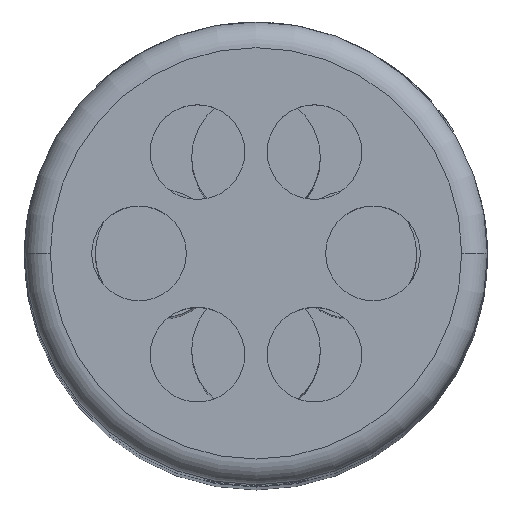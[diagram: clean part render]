
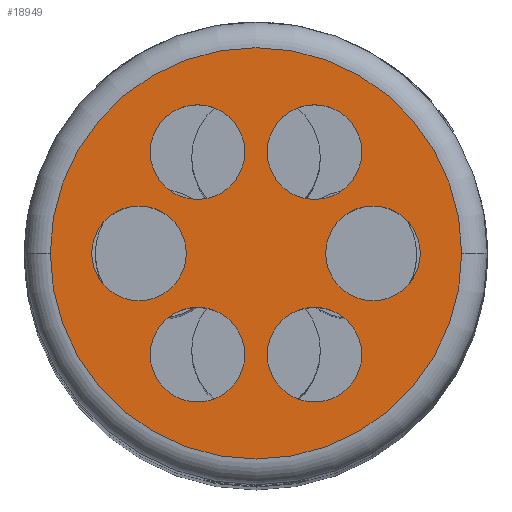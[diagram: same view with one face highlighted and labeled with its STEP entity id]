
A CAD part, top view. The second image highlights one B-rep face of the part: STEP entity #18949.
In plain terms, the highlighted planar face has unit normal (0, 0, 1) as drawn and (0, 0, -1) by its records, which use the part's own axes.
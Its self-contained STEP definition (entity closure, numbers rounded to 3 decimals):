
#18030=CARTESIAN_POINT('',(0.,0.,0.));
#18031=DIRECTION('',(0.,0.,-1.));
#18032=DIRECTION('',(1.,0.,0.));
#18033=AXIS2_PLACEMENT_3D('',#18030,#18031,#18032);
#18035=CARTESIAN_POINT('',(0.,0.,0.));
#18036=DIRECTION('',(0.,0.,-1.));
#18037=DIRECTION('',(-1.,0.,0.));
#18038=AXIS2_PLACEMENT_3D('',#18035,#18036,#18037);
#18040=CARTESIAN_POINT('',(9.099,0.,0.));
#18041=DIRECTION('',(0.,0.,-1.));
#18042=DIRECTION('',(-1.,0.,0.));
#18043=AXIS2_PLACEMENT_3D('',#18040,#18041,#18042);
#18045=CARTESIAN_POINT('',(9.099,0.,0.));
#18046=DIRECTION('',(0.,0.,-1.));
#18047=DIRECTION('',(1.,0.,0.));
#18048=AXIS2_PLACEMENT_3D('',#18045,#18046,#18047);
#18050=CARTESIAN_POINT('',(4.549,7.88,0.));
#18051=DIRECTION('',(0.,0.,-1.));
#18052=DIRECTION('',(-1.,0.,0.));
#18053=AXIS2_PLACEMENT_3D('',#18050,#18051,#18052);
#18055=CARTESIAN_POINT('',(4.549,7.88,0.));
#18056=DIRECTION('',(0.,0.,-1.));
#18057=DIRECTION('',(1.,0.,0.));
#18058=AXIS2_PLACEMENT_3D('',#18055,#18056,#18057);
#18060=CARTESIAN_POINT('',(-4.549,7.88,0.));
#18061=DIRECTION('',(0.,0.,-1.));
#18062=DIRECTION('',(-1.,0.,0.));
#18063=AXIS2_PLACEMENT_3D('',#18060,#18061,#18062);
#18065=CARTESIAN_POINT('',(-4.549,7.88,0.));
#18066=DIRECTION('',(0.,0.,-1.));
#18067=DIRECTION('',(1.,0.,0.));
#18068=AXIS2_PLACEMENT_3D('',#18065,#18066,#18067);
#18070=CARTESIAN_POINT('',(-9.099,0.,0.));
#18071=DIRECTION('',(0.,0.,-1.));
#18072=DIRECTION('',(-1.,0.,0.));
#18073=AXIS2_PLACEMENT_3D('',#18070,#18071,#18072);
#18075=CARTESIAN_POINT('',(-9.099,0.,0.));
#18076=DIRECTION('',(0.,0.,-1.));
#18077=DIRECTION('',(1.,0.,0.));
#18078=AXIS2_PLACEMENT_3D('',#18075,#18076,#18077);
#18080=CARTESIAN_POINT('',(-4.549,-7.88,0.));
#18081=DIRECTION('',(0.,0.,-1.));
#18082=DIRECTION('',(-1.,0.,0.));
#18083=AXIS2_PLACEMENT_3D('',#18080,#18081,#18082);
#18085=CARTESIAN_POINT('',(-4.549,-7.88,0.));
#18086=DIRECTION('',(0.,0.,-1.));
#18087=DIRECTION('',(1.,0.,0.));
#18088=AXIS2_PLACEMENT_3D('',#18085,#18086,#18087);
#18090=CARTESIAN_POINT('',(4.549,-7.88,0.));
#18091=DIRECTION('',(0.,0.,-1.));
#18092=DIRECTION('',(-1.,0.,0.));
#18093=AXIS2_PLACEMENT_3D('',#18090,#18091,#18092);
#18095=CARTESIAN_POINT('',(4.549,-7.88,0.));
#18096=DIRECTION('',(0.,0.,-1.));
#18097=DIRECTION('',(1.,0.,0.));
#18098=AXIS2_PLACEMENT_3D('',#18095,#18096,#18097);
#18790=CARTESIAN_POINT('',(16.,0.,0.));
#18791=CARTESIAN_POINT('',(-16.,0.,0.));
#18792=VERTEX_POINT('',#18790);
#18793=VERTEX_POINT('',#18791);
#18798=CARTESIAN_POINT('',(5.419,0.,0.));
#18799=CARTESIAN_POINT('',(12.779,0.,0.));
#18800=VERTEX_POINT('',#18798);
#18801=VERTEX_POINT('',#18799);
#18802=CARTESIAN_POINT('',(0.869,7.88,0.));
#18803=CARTESIAN_POINT('',(8.23,7.88,0.));
#18804=VERTEX_POINT('',#18802);
#18805=VERTEX_POINT('',#18803);
#18806=CARTESIAN_POINT('',(-8.23,7.88,0.));
#18807=CARTESIAN_POINT('',(-0.869,7.88,0.));
#18808=VERTEX_POINT('',#18806);
#18809=VERTEX_POINT('',#18807);
#18810=CARTESIAN_POINT('',(-12.779,0.,0.));
#18811=CARTESIAN_POINT('',(-5.419,0.,0.));
#18812=VERTEX_POINT('',#18810);
#18813=VERTEX_POINT('',#18811);
#18814=CARTESIAN_POINT('',(-8.23,-7.88,0.));
#18815=CARTESIAN_POINT('',(-0.869,-7.88,0.));
#18816=VERTEX_POINT('',#18814);
#18817=VERTEX_POINT('',#18815);
#18818=CARTESIAN_POINT('',(0.869,-7.88,0.));
#18819=CARTESIAN_POINT('',(8.23,-7.88,0.));
#18820=VERTEX_POINT('',#18818);
#18821=VERTEX_POINT('',#18819);
#18902=CARTESIAN_POINT('',(0.,0.,0.));
#18903=DIRECTION('',(0.,0.,1.));
#18904=DIRECTION('',(1.,0.,0.));
#18905=AXIS2_PLACEMENT_3D('',#18902,#18903,#18904);
#18906=PLANE('',#18905);
#18908=ORIENTED_EDGE('',*,*,#18907,.F.);
#18910=ORIENTED_EDGE('',*,*,#18909,.F.);
#18911=EDGE_LOOP('',(#18908,#18910));
#18912=FACE_OUTER_BOUND('',#18911,.F.);
#18914=ORIENTED_EDGE('',*,*,#18913,.T.);
#18916=ORIENTED_EDGE('',*,*,#18915,.T.);
#18917=EDGE_LOOP('',(#18914,#18916));
#18918=FACE_BOUND('',#18917,.F.);
#18920=ORIENTED_EDGE('',*,*,#18919,.T.);
#18922=ORIENTED_EDGE('',*,*,#18921,.T.);
#18923=EDGE_LOOP('',(#18920,#18922));
#18924=FACE_BOUND('',#18923,.F.);
#18926=ORIENTED_EDGE('',*,*,#18925,.T.);
#18928=ORIENTED_EDGE('',*,*,#18927,.T.);
#18929=EDGE_LOOP('',(#18926,#18928));
#18930=FACE_BOUND('',#18929,.F.);
#18932=ORIENTED_EDGE('',*,*,#18931,.T.);
#18934=ORIENTED_EDGE('',*,*,#18933,.T.);
#18935=EDGE_LOOP('',(#18932,#18934));
#18936=FACE_BOUND('',#18935,.F.);
#18938=ORIENTED_EDGE('',*,*,#18937,.T.);
#18940=ORIENTED_EDGE('',*,*,#18939,.T.);
#18941=EDGE_LOOP('',(#18938,#18940));
#18942=FACE_BOUND('',#18941,.F.);
#18944=ORIENTED_EDGE('',*,*,#18943,.T.);
#18946=ORIENTED_EDGE('',*,*,#18945,.T.);
#18947=EDGE_LOOP('',(#18944,#18946));
#18948=FACE_BOUND('',#18947,.F.);
#18949=ADVANCED_FACE('',(#18912,#18918,#18924,#18930,#18936,#18942,#18948),
#18906,.F.);
#18034=CIRCLE('',#18033,16.);
#18039=CIRCLE('',#18038,16.);
#18044=CIRCLE('',#18043,3.68);
#18049=CIRCLE('',#18048,3.68);
#18054=CIRCLE('',#18053,3.68);
#18059=CIRCLE('',#18058,3.68);
#18064=CIRCLE('',#18063,3.68);
#18069=CIRCLE('',#18068,3.68);
#18074=CIRCLE('',#18073,3.68);
#18079=CIRCLE('',#18078,3.68);
#18084=CIRCLE('',#18083,3.68);
#18089=CIRCLE('',#18088,3.68);
#18094=CIRCLE('',#18093,3.68);
#18099=CIRCLE('',#18098,3.68);
#18907=EDGE_CURVE('',#18792,#18793,#18034,.T.);
#18909=EDGE_CURVE('',#18793,#18792,#18039,.T.);
#18913=EDGE_CURVE('',#18800,#18801,#18044,.T.);
#18915=EDGE_CURVE('',#18801,#18800,#18049,.T.);
#18919=EDGE_CURVE('',#18804,#18805,#18054,.T.);
#18921=EDGE_CURVE('',#18805,#18804,#18059,.T.);
#18925=EDGE_CURVE('',#18808,#18809,#18064,.T.);
#18927=EDGE_CURVE('',#18809,#18808,#18069,.T.);
#18931=EDGE_CURVE('',#18812,#18813,#18074,.T.);
#18933=EDGE_CURVE('',#18813,#18812,#18079,.T.);
#18937=EDGE_CURVE('',#18816,#18817,#18084,.T.);
#18939=EDGE_CURVE('',#18817,#18816,#18089,.T.);
#18943=EDGE_CURVE('',#18820,#18821,#18094,.T.);
#18945=EDGE_CURVE('',#18821,#18820,#18099,.T.);
